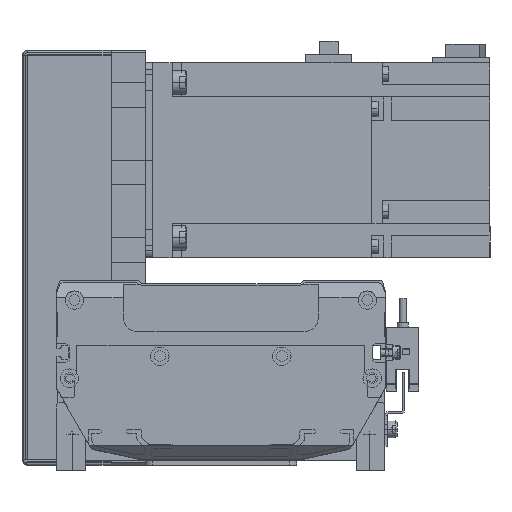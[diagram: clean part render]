
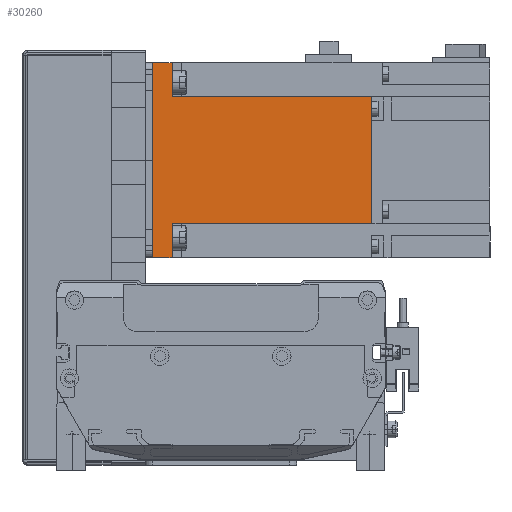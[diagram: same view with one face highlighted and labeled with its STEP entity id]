
A CAD part, front view. The second image highlights one B-rep face of the part: STEP entity #30260.
In plain terms, the highlighted planar face has unit normal (0, -1, 0) as drawn and (0, 0, -1) by its records, which use the part's own axes.
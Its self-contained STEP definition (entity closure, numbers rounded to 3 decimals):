
#503 = ORIENTED_EDGE ( 'NONE', *, *, #41890, .T. ) ;
#763 = ORIENTED_EDGE ( 'NONE', *, *, #52800, .F. ) ;
#1576 = VERTEX_POINT ( 'NONE', #21020 ) ;
#1742 = LINE ( 'NONE', #44782, #52035 ) ;
#5410 = EDGE_CURVE ( 'NONE', #22674, #28096, #26724, .T. ) ;
#6170 = EDGE_CURVE ( 'NONE', #47657, #53918, #29247, .T. ) ;
#7009 = VECTOR ( 'NONE', #14750, 1000. ) ;
#9872 = CARTESIAN_POINT ( 'NONE',  ( 40., 89.8, -40. ) ) ;
#12887 = VERTEX_POINT ( 'NONE', #48695 ) ;
#12971 = ORIENTED_EDGE ( 'NONE', *, *, #6170, .T. ) ;
#14403 = CARTESIAN_POINT ( 'NONE',  ( 25.95, 8., -40. ) ) ;
#14750 = DIRECTION ( 'NONE',  ( 0., -1., 0. ) ) ;
#14761 = EDGE_CURVE ( 'NONE', #37882, #12887, #1742, .T. ) ;
#15026 = VECTOR ( 'NONE', #26353, 1000. ) ;
#15439 = AXIS2_PLACEMENT_3D ( 'NONE', #9872, #47166, #30736 ) ;
#18192 = VECTOR ( 'NONE', #53623, 1000. ) ;
#18763 = CARTESIAN_POINT ( 'NONE',  ( -40., 89.8, -40. ) ) ;
#20170 = CARTESIAN_POINT ( 'NONE',  ( 25.95, 89.8, -40. ) ) ;
#21020 = CARTESIAN_POINT ( 'NONE',  ( -25.95, 89.8, -40. ) ) ;
#22674 = VERTEX_POINT ( 'NONE', #49816 ) ;
#23401 = EDGE_CURVE ( 'NONE', #47657, #22674, #41872, .T. ) ;
#23942 = DIRECTION ( 'NONE',  ( -1., 0., 0. ) ) ;
#25087 = ORIENTED_EDGE ( 'NONE', *, *, #14761, .F. ) ;
#25216 = VECTOR ( 'NONE', #34709, 1000. ) ;
#25250 = VECTOR ( 'NONE', #47867, 1000. ) ;
#25949 = EDGE_CURVE ( 'NONE', #27523, #1576, #47456, .T. ) ;
#26353 = DIRECTION ( 'NONE',  ( 0., 1., 0. ) ) ;
#26480 = CARTESIAN_POINT ( 'NONE',  ( 40., 8., -40. ) ) ;
#26724 = LINE ( 'NONE', #26480, #51578 ) ;
#27523 = VERTEX_POINT ( 'NONE', #30259 ) ;
#28096 = VERTEX_POINT ( 'NONE', #14403 ) ;
#29247 = LINE ( 'NONE', #50761, #38447 ) ;
#29304 = CARTESIAN_POINT ( 'NONE',  ( -25.95, 8., -40. ) ) ;
#29604 = ORIENTED_EDGE ( 'NONE', *, *, #25949, .F. ) ;
#29933 = DIRECTION ( 'NONE',  ( -1., 0., 0. ) ) ;
#30259 = CARTESIAN_POINT ( 'NONE',  ( 25.95, 89.8, -40. ) ) ;
#30260 = ADVANCED_FACE ( 'NONE', ( #43703 ), #42970, .F. ) ;
#30514 = LINE ( 'NONE', #18763, #25250 ) ;
#30736 = DIRECTION ( 'NONE',  ( 1., 0., 0. ) ) ;
#34622 = CARTESIAN_POINT ( 'NONE',  ( 40., 89.8, -40. ) ) ;
#34709 = DIRECTION ( 'NONE',  ( -1., 0., 0. ) ) ;
#35757 = EDGE_LOOP ( 'NONE', ( #45575, #51967, #12971, #503, #25087, #53197, #29604, #763 ) ) ;
#37212 = LINE ( 'NONE', #20170, #18192 ) ;
#37882 = VERTEX_POINT ( 'NONE', #29304 ) ;
#38447 = VECTOR ( 'NONE', #29933, 1000. ) ;
#41001 = EDGE_CURVE ( 'NONE', #1576, #37882, #48217, .T. ) ;
#41872 = LINE ( 'NONE', #34622, #15026 ) ;
#41890 = EDGE_CURVE ( 'NONE', #53918, #12887, #30514, .T. ) ;
#42100 = CARTESIAN_POINT ( 'NONE',  ( 40., 0., -40. ) ) ;
#42970 = PLANE ( 'NONE',  #15439 ) ;
#43089 = CARTESIAN_POINT ( 'NONE',  ( 40., 89.8, -40. ) ) ;
#43126 = DIRECTION ( 'NONE',  ( -1., 0., 0. ) ) ;
#43703 = FACE_OUTER_BOUND ( 'NONE', #35757, .T. ) ;
#44569 = CARTESIAN_POINT ( 'NONE',  ( -25.95, 89.8, -40. ) ) ;
#44782 = CARTESIAN_POINT ( 'NONE',  ( 40., 8., -40. ) ) ;
#45575 = ORIENTED_EDGE ( 'NONE', *, *, #5410, .F. ) ;
#47166 = DIRECTION ( 'NONE',  ( 0., 0., 1. ) ) ;
#47456 = LINE ( 'NONE', #43089, #25216 ) ;
#47657 = VERTEX_POINT ( 'NONE', #42100 ) ;
#47867 = DIRECTION ( 'NONE',  ( 0., 1., 0. ) ) ;
#48217 = LINE ( 'NONE', #44569, #7009 ) ;
#48695 = CARTESIAN_POINT ( 'NONE',  ( -40., 8., -40. ) ) ;
#49816 = CARTESIAN_POINT ( 'NONE',  ( 40., 8., -40. ) ) ;
#49910 = CARTESIAN_POINT ( 'NONE',  ( -40., 0., -40. ) ) ;
#50761 = CARTESIAN_POINT ( 'NONE',  ( 0., 0., -40. ) ) ;
#51578 = VECTOR ( 'NONE', #43126, 1000. ) ;
#51967 = ORIENTED_EDGE ( 'NONE', *, *, #23401, .F. ) ;
#52035 = VECTOR ( 'NONE', #23942, 1000. ) ;
#52800 = EDGE_CURVE ( 'NONE', #28096, #27523, #37212, .T. ) ;
#53197 = ORIENTED_EDGE ( 'NONE', *, *, #41001, .F. ) ;
#53623 = DIRECTION ( 'NONE',  ( 0., 1., 0. ) ) ;
#53918 = VERTEX_POINT ( 'NONE', #49910 ) ;
